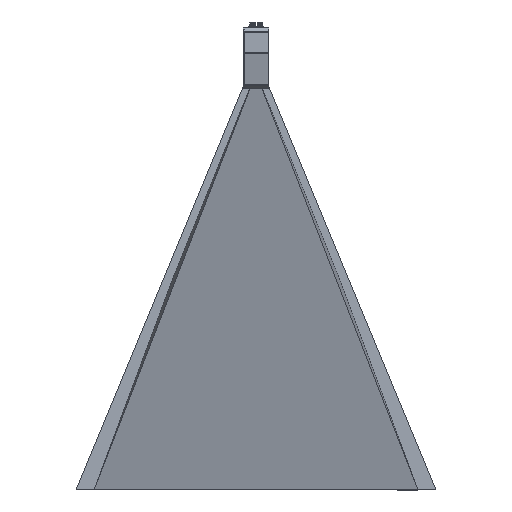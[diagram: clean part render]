
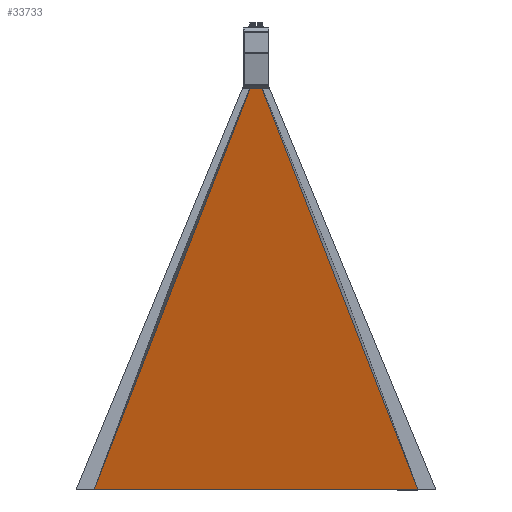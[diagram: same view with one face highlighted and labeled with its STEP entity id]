
A CAD part, left-side view. The second image highlights one B-rep face of the part: STEP entity #33733.
In plain terms, the highlighted planar face has unit normal (-0.971, 0, -0.237) as drawn and (0.074, -0.997, 0) by its records, which use the part's own axes.
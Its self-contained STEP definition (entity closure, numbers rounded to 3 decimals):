
#1720=PLANE('',#37481);
#5370=FACE_OUTER_BOUND('',#7596,.T.);
#7596=EDGE_LOOP('',(#31120,#31121,#31122,#31123));
#10027=LINE('',#93375,#12468);
#10030=LINE('',#93381,#12471);
#10034=LINE('',#93402,#12475);
#10035=LINE('',#93404,#12476);
#12468=VECTOR('',#46742,10.);
#12471=VECTOR('',#46747,10.);
#12475=VECTOR('',#46753,10.);
#12476=VECTOR('',#46756,1052.919);
#17188=VERTEX_POINT('',#93372);
#17189=VERTEX_POINT('',#93374);
#17190=VERTEX_POINT('',#93378);
#17191=VERTEX_POINT('',#93380);
#21830=EDGE_CURVE('',#17188,#17189,#10027,.T.);
#21833=EDGE_CURVE('',#17191,#17190,#10030,.T.);
#21837=EDGE_CURVE('',#17191,#17188,#10034,.T.);
#21838=EDGE_CURVE('',#17190,#17189,#10035,.T.);
#31120=ORIENTED_EDGE('',*,*,#21833,.T.);
#31121=ORIENTED_EDGE('',*,*,#21838,.T.);
#31122=ORIENTED_EDGE('',*,*,#21830,.F.);
#31123=ORIENTED_EDGE('',*,*,#21837,.F.);
#33733=ADVANCED_FACE('',(#5370),#1720,.T.);
#37481=AXIS2_PLACEMENT_3D('',#93403,#46754,#46755);
#46742=DIRECTION('',(0.,0.,-1.));
#46747=DIRECTION('',(0.,0.,-1.));
#46753=DIRECTION('',(0.933,0.07,-0.353));
#46754=DIRECTION('center_axis',(0.074,-0.997,0.));
#46755=DIRECTION('ref_axis',(0.,0.,-1.));
#46756=DIRECTION('',(0.933,0.07,0.353));
#93372=CARTESIAN_POINT('',(0.,-4.,9.165));
#93374=CARTESIAN_POINT('',(0.,-4.,-9.165));
#93375=CARTESIAN_POINT('',(0.,-4.,-9.165));
#93378=CARTESIAN_POINT('',(-982.35,-77.254,-381.));
#93380=CARTESIAN_POINT('',(-982.35,-77.254,381.));
#93381=CARTESIAN_POINT('',(-982.35,-77.254,381.));
#93402=CARTESIAN_POINT('',(-982.35,-77.254,381.));
#93403=CARTESIAN_POINT('Origin',(-982.35,-77.254,381.));
#93404=CARTESIAN_POINT('',(-982.35,-77.254,-381.));
